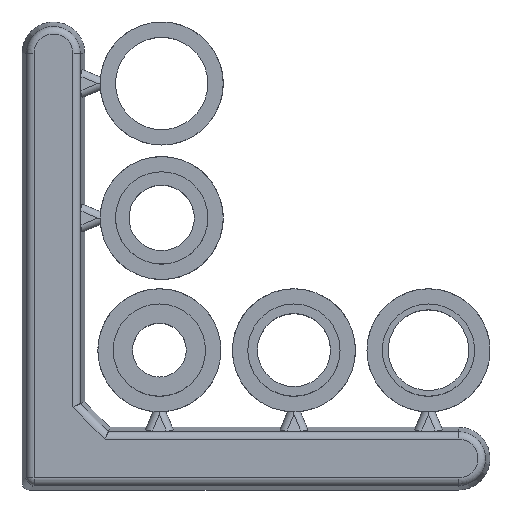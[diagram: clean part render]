
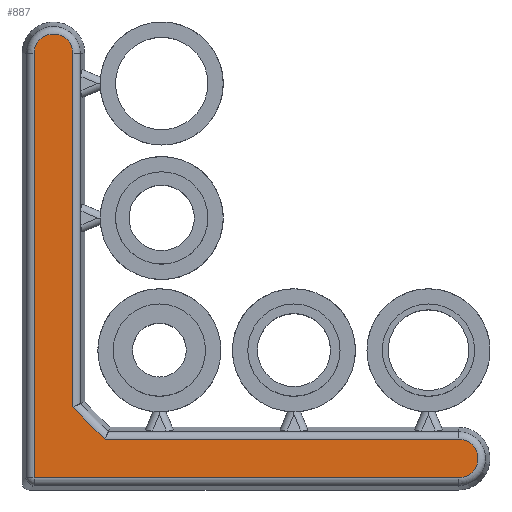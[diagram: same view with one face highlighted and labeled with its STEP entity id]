
A CAD part, top view. The second image highlights one B-rep face of the part: STEP entity #887.
In plain terms, the highlighted planar face has unit normal (0, 0, 1).
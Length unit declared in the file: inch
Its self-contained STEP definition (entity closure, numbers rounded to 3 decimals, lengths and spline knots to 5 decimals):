
#769=CARTESIAN_POINT('',(7.97027,7.77977,-0.875));
#770=VERTEX_POINT('',#769);
#778=CARTESIAN_POINT('',(7.97027,6.4004,-0.875));
#779=VERTEX_POINT('',#778);
#780=CARTESIAN_POINT('',(7.97027,7.77977,-0.875));
#781=DIRECTION('',(0.0,-1.0,0.0));
#782=VECTOR('',#781,1.37937);
#783=LINE('',#780,#782);
#784=EDGE_CURVE('',#770,#779,#783,.T.);
#818=CARTESIAN_POINT('',(7.8197,7.77977,-0.875));
#819=VERTEX_POINT('',#818);
#820=CARTESIAN_POINT('',(7.89498,7.77977,-0.875));
#821=DIRECTION('',(0.,0.,-1.0));
#822=DIRECTION('',(1.0,0.,0.));
#823=AXIS2_PLACEMENT_3D('',#820,#821,#822);
#824=CIRCLE('',#823,0.07529);
#825=EDGE_CURVE('',#819,#770,#824,.T.);
#839=CARTESIAN_POINT('',(8.68548,6.12349,-0.875));
#840=DIRECTION('',(0.0,0.0,1.0));
#841=DIRECTION('',(1.0,0.0,0.0));
#842=AXIS2_PLACEMENT_3D('',#839,#840,#841);
#843=PLANE('',#842);
#844=CARTESIAN_POINT('',(9.47598,6.12349,-0.875));
#845=VERTEX_POINT('',#844);
#846=CARTESIAN_POINT('',(7.8197,6.12349,-0.875));
#847=VERTEX_POINT('',#846);
#848=CARTESIAN_POINT('',(9.47598,6.12349,-0.875));
#849=DIRECTION('',(-1.0,0.0,0.0));
#850=VECTOR('',#849,1.65629);
#851=LINE('',#848,#850);
#852=EDGE_CURVE('',#845,#847,#851,.T.);
#853=ORIENTED_EDGE('',*,*,#852,.F.);
#854=CARTESIAN_POINT('',(9.47598,6.27406,-0.875));
#855=VERTEX_POINT('',#854);
#856=CARTESIAN_POINT('',(9.47598,6.19877,-0.875));
#857=DIRECTION('',(0.,0.,-1.0));
#858=DIRECTION('',(0.,-1.0,0.));
#859=AXIS2_PLACEMENT_3D('',#856,#857,#858);
#860=CIRCLE('',#859,0.07529);
#861=EDGE_CURVE('',#855,#845,#860,.T.);
#862=ORIENTED_EDGE('',*,*,#861,.F.);
#863=CARTESIAN_POINT('',(8.09661,6.27406,-0.875));
#864=VERTEX_POINT('',#863);
#865=CARTESIAN_POINT('',(8.09661,6.27406,-0.875));
#866=DIRECTION('',(1.0,0.0,0.0));
#867=VECTOR('',#866,1.37937);
#868=LINE('',#865,#867);
#869=EDGE_CURVE('',#864,#855,#868,.T.);
#870=ORIENTED_EDGE('',*,*,#869,.F.);
#871=CARTESIAN_POINT('',(7.97027,6.4004,-0.875));
#872=DIRECTION('',(0.707,-0.707,0.0));
#873=VECTOR('',#872,0.17868);
#874=LINE('',#871,#873);
#875=EDGE_CURVE('',#779,#864,#874,.T.);
#876=ORIENTED_EDGE('',*,*,#875,.F.);
#877=ORIENTED_EDGE('',*,*,#784,.F.);
#878=ORIENTED_EDGE('',*,*,#825,.F.);
#879=CARTESIAN_POINT('',(7.8197,6.12349,-0.875));
#880=DIRECTION('',(0.0,1.0,0.0));
#881=VECTOR('',#880,1.65629);
#882=LINE('',#879,#881);
#883=EDGE_CURVE('',#847,#819,#882,.T.);
#884=ORIENTED_EDGE('',*,*,#883,.F.);
#885=EDGE_LOOP('',(#853,#862,#870,#876,#877,#878,#884));
#886=FACE_OUTER_BOUND('',#885,.T.);
#887=ADVANCED_FACE('',(#886),#843,.T.);
